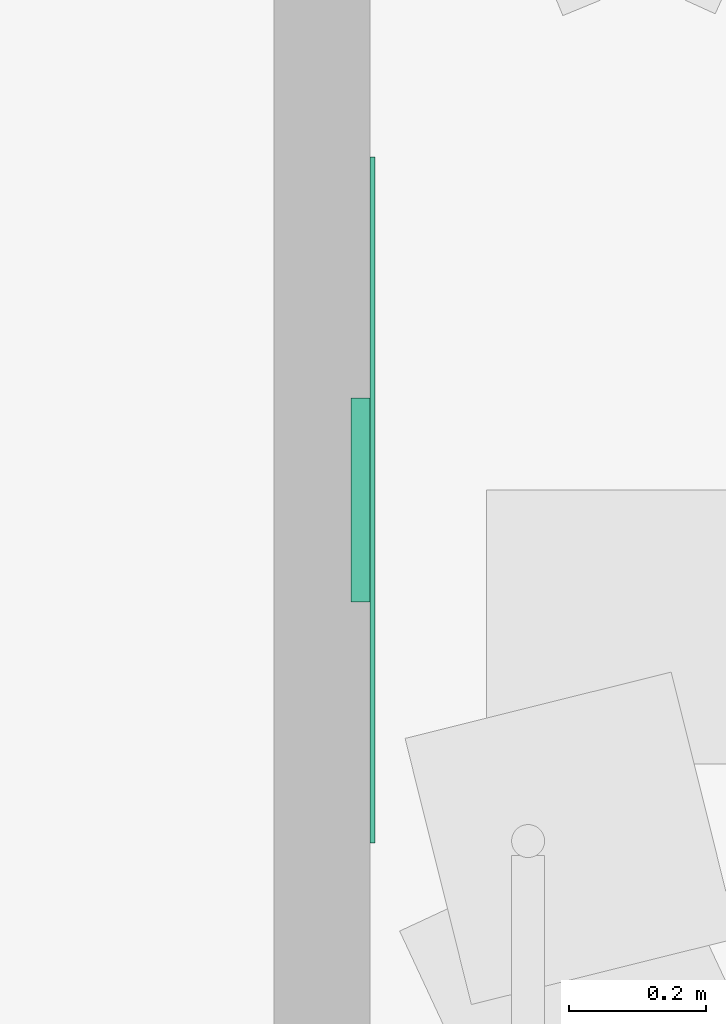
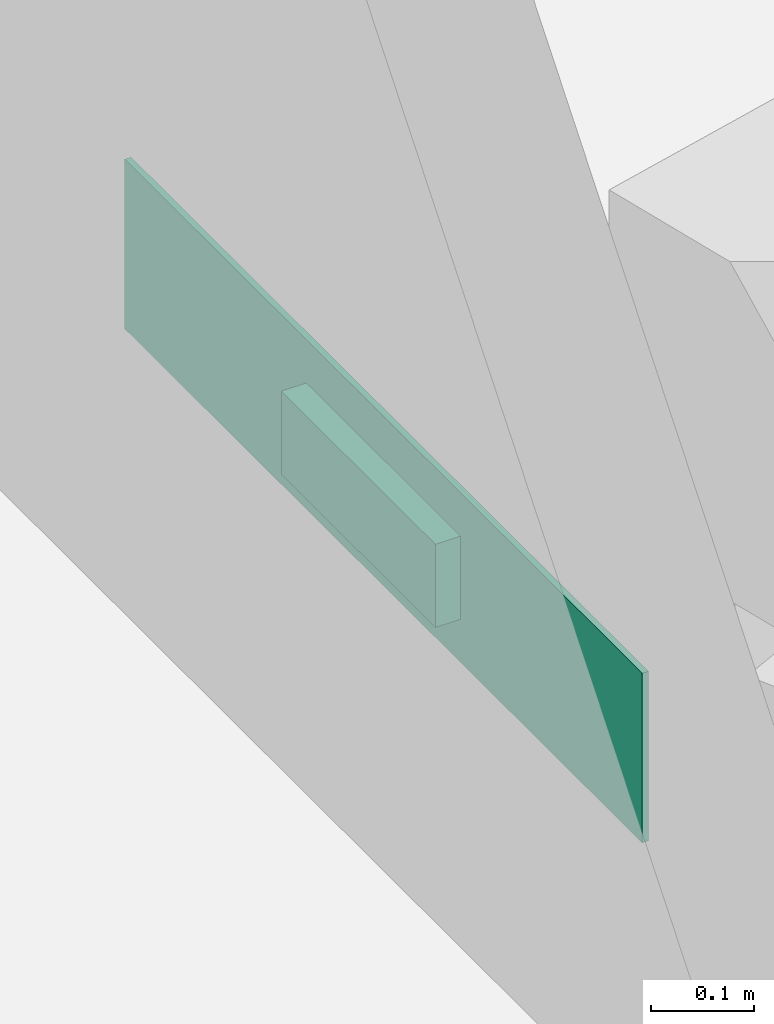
# One storey, part 36 of 71: 1 air terminal.
"""IFC4 building model written with IfcOpenShell, lengths in centimetres."""

from ifc_helpers import new_model, entity, si_unit, converted_unit, derived_unit, direction, frame, origin, place, context, subcontext, project, spatial, arc, indexed_curve, outline, extrude, source, transform, mapped, material, constituent, constituent_set, type_object, type_shapes, element, save


model = new_model("IFC4")

# Units and contexts
model_context = context("Model", 3, precision=0.001, world=origin(), true_north=direction((6.123233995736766e-17, 1.0)))
body_context = subcontext(model_context, "Body", "Model", "MODEL_VIEW")
ifc_project = project(units=[si_unit("LENGTHUNIT", "METRE", prefix="CENTI"), si_unit("AREAUNIT", "SQUARE_METRE"), si_unit("VOLUMEUNIT", "CUBIC_METRE"), derived_unit("THERMALTRANSMITTANCEUNIT", [(si_unit("MASSUNIT", "GRAM", prefix="KILO"), 1), (si_unit("THERMODYNAMICTEMPERATUREUNIT", "KELVIN"), -1), (si_unit("TIMEUNIT", "SECOND"), -3)]), converted_unit("PLANEANGLEUNIT", "DEGREE", entity("IfcPlaneAngleMeasure", 0.017453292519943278), si_unit("PLANEANGLEUNIT", "RADIAN"), dimensions=[0, 0, 0, 0, 0, 0, 0]), derived_unit("MASSDENSITYUNIT", [(si_unit("MASSUNIT", "GRAM", prefix="KILO"), 1), (si_unit("LENGTHUNIT", "METRE"), -3)]), derived_unit("VAPORPERMEABILITYUNIT", [(si_unit("LENGTHUNIT", "METRE"), -1), (si_unit("TIMEUNIT", "SECOND"), 1)]), derived_unit("USERDEFINED", [(si_unit("MASSUNIT", "GRAM", prefix="KILO"), 1), (si_unit("TIMEUNIT", "SECOND"), -3), (si_unit("LENGTHUNIT", "METRE"), 3), (si_unit("ELECTRICCURRENTUNIT", "AMPERE"), -2)]), derived_unit("SPECIFICHEATCAPACITYUNIT", [(si_unit("THERMODYNAMICTEMPERATUREUNIT", "KELVIN"), -1), (si_unit("LENGTHUNIT", "METRE"), 2), (si_unit("TIMEUNIT", "SECOND"), -2)]), derived_unit("THERMALCONDUCTANCEUNIT", [(si_unit("MASSUNIT", "GRAM", prefix="KILO"), 1), (si_unit("THERMODYNAMICTEMPERATUREUNIT", "KELVIN"), -1), (si_unit("TIMEUNIT", "SECOND"), -3), (si_unit("LENGTHUNIT", "METRE"), 1)]), si_unit("PRESSUREUNIT", "PASCAL"), derived_unit("MODULUSOFELASTICITYUNIT", [(si_unit("MASSUNIT", "GRAM", prefix="KILO"), 1), (si_unit("LENGTHUNIT", "METRE"), -1), (si_unit("TIMEUNIT", "SECOND"), -2)]), derived_unit("THERMALEXPANSIONCOEFFICIENTUNIT", [(si_unit("THERMODYNAMICTEMPERATUREUNIT", "KELVIN"), -1)])], contexts=[model_context])

# Site, building, storey, space
site_placement = place(None, origin())
site = spatial("IfcSite", under=ifc_project, at=site_placement, Name="Default", CompositionType="ELEMENT")
building_placement = place(site_placement, origin())
building = spatial("IfcBuilding", under=site, at=building_placement, Name="IDS Escape Game Building", CompositionType="ELEMENT")
storey_placement = place(building_placement, frame((0.0, 0.0, 400.0)))
storey = spatial("IfcBuildingStorey", under=building, at=storey_placement, Name="01_First Floor", CompositionType="ELEMENT", Elevation=399.99999999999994)
space_placement = place(storey_placement, origin())
space = spatial("IfcSpace", under=storey, at=space_placement, Name="56", CompositionType="ELEMENT", PredefinedType="NOTDEFINED")

# Air terminal
ifc_material_1 = material(Name="TB_LVC_referentievlak_00_gen_BERSnl", Category="BE Default")
ifc_constituent_1 = constituent(ifc_material_1, Name="TB_LVC_referentievlak_00_gen_BERSnl", Category="BE Default", fraction=0.00014157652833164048)
ifc_material_2 = material(Name="ARC_FME.h2_staal_00_gen_BERSnl", Category="h - metaal")
ifc_constituent_2 = constituent(ifc_material_2, Name="ARC_FME.h2_staal_00_gen_BERSnl", Category="h - metaal", fraction=0.9998584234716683)
ifc_constituent_set_1 = constituent_set(constituents=[ifc_constituent_1, ifc_constituent_2])
ifc_constituent_3 = constituent(ifc_material_1, Name="BE Referentievlak", Category="BE Default", fraction=0.00014157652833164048)
ifc_constituent_4 = constituent(ifc_material_2, Name="Terminals", Category="h - metaal", fraction=0.9998584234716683)
ifc_constituent_set_2 = constituent_set(constituents=[ifc_constituent_3, ifc_constituent_4])
air_terminal_type = type_object("IfcAirTerminalType", Name="TB_57_AIR_FB_aanzuigrooster - 1 rechthoekige aansluiting - calculated flow_gen_BERSnl:Air Terminal - Exhaust", PredefinedType="GRILLE", material=ifc_constituent_set_2)
shared_shape = source(origin(), body_context, "Body", "SweptSolid", [
    extrude(outline(indexed_curve([(-0.5, -2.0290176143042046e-15), (6.8507733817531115e-16, -0.5000000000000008), (0.5, 2.0290176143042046e-15), (-5.361679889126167e-16, 0.49999999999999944)], segments=[arc(1, 2, 3), arc(3, 4, 1)], self_intersect=False)), frame((0.0, 0.0, 0.0), z_axis=(1.7453292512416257e-05, 0.0, 1.0), x_axis=(0.0, 1.0, 0.0)), (0.0, 0.0, 1.0), 0.09999999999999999),
    extrude(outline(indexed_curve([(-14.900000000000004, -4.9), (14.900000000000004, -4.9), (14.900000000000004, 4.9), (-14.900000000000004, 4.9), (-14.900000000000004, -4.9)], self_intersect=False)), frame((-4.886921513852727e-05, 0.0, -2.7999999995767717)), (0.0, 0.0, 1.0), 2.7999999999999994),
    extrude(outline(indexed_curve([(-50.0, -10.0), (50.0, -10.0), (50.0, 10.0), (-50.0, 10.0), (-50.0, -10.0)], self_intersect=False)), frame((0.0, 0.0, 0.0), z_axis=(0.0, 0.0, 1.0), x_axis=(-1.0, 0.0, 0.0)), (0.0, 0.0, 1.0), 0.6999999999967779),
])
type_shapes(air_terminal_type, [shared_shape])
air_terminal_placement = place(space_placement, frame((4435.0, 1559.0, 24.0), z_axis=(1.0, 0.0, 0.0), x_axis=(0.0, 1.0, 0.0)))
element("IfcAirTerminal", 1, at=air_terminal_placement, inside=space, type_object=air_terminal_type, material=ifc_constituent_set_1, Name="TB_57_AIR_FB_aanzuigrooster - 1 rechthoekige aansluiting - calculated flow_gen_BERSnl:Air Terminal - Exhaust", ObjectType="TB_57_AIR_FB_aanzuigrooster - 1 rechthoekige aansluiting - calculated flow_gen_BERSnl:Air Terminal - Exhaust", PredefinedType="GRILLE", context=body_context, shape_type="MappedRepresentation", body=[
    mapped(shared_shape, transform((0.0, 0.0, 0.0), scale=1.0)),
])

save(model, "model.ifc")
